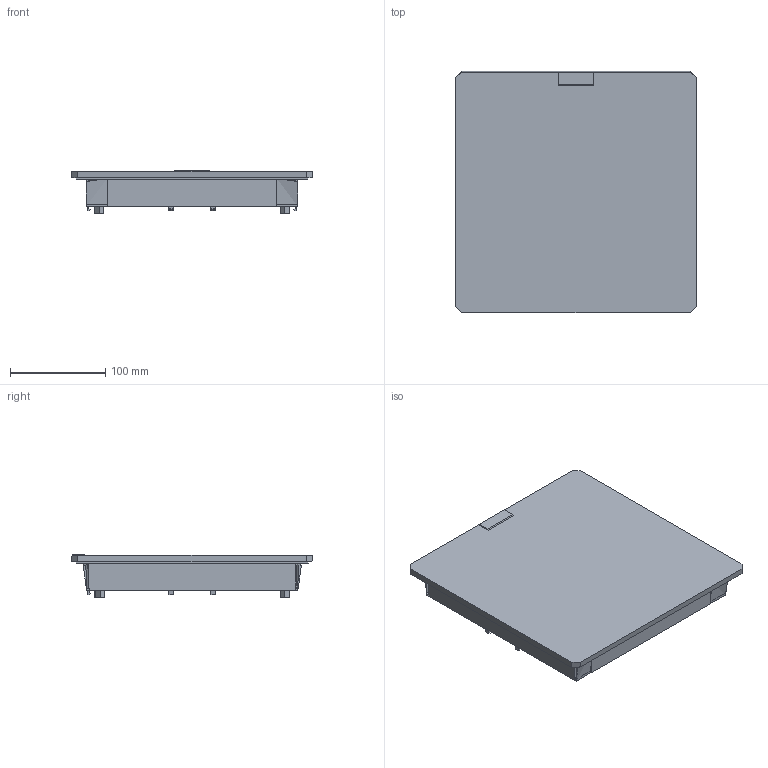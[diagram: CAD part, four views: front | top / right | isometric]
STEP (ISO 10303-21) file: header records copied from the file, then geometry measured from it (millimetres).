
FILE_DESCRIPTION( ( 'STEP AP214' ), '1' );
FILE_NAME( 'p:/temp/worker_154/temp/exporttempdir_4184_140_j5i8P/format_0/EFA250-300R5(0).stp', '2021-03-15T16:37:26', ( 'License CC BY-ND 4.0' ), ( 'CADENAS' ), ' ', 'PARTsolutions', ' ' );
FILE_SCHEMA( ( 'AUTOMOTIVE_DESIGN { 1 0 10303 214 1 1 1 1 }' ) );
Length unit declared in the file: millimetre
Products named in the file (1): _EFA250-300R5(0)
Bounding box: 252 x 252.7 x 45.25 mm (x, y, z)
Volume: 1895444.6 mm3; surface area: 169630.1 mm2
Topology: 1 solids, 1 shells, 134 faces, 354 edges, 236 vertices
Faces by surface type: plane 122, bspline 12
Entity records: 5178 total; most frequent: CARTESIAN_POINT 873, ORIENTED_EDGE 708, DIRECTION 560, EDGE_CURVE 354, LINE 314, VECTOR 314, VERTEX_POINT 236, EDGE_LOOP 148
